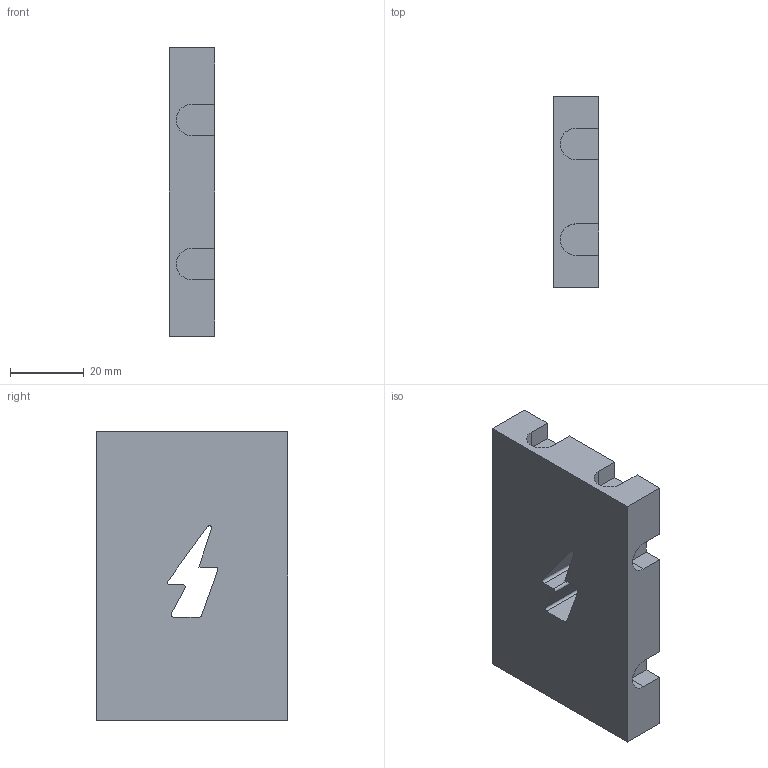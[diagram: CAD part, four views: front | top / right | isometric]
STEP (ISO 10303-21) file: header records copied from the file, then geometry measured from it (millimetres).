
FILE_DESCRIPTION (( 'STEP AP203' ), '1' );
FILE_NAME ('Section_C2.STEP', '2026-07-26T18:23:27', ( '' ), ( '' ), 'SwSTEP 2.0', 'SolidWorks 2024', '' );
FILE_SCHEMA (( 'CONFIG_CONTROL_DESIGN' ));
Length unit declared in the file: inch
Products named in the file (1): Section_C2
Bounding box: 12.34 x 51.82 x 78.08 mm (x, y, z)
Volume: 45470.1 mm3; surface area: 12398.1 mm2
Topology: 1 solids, 1 shells, 45 faces, 129 edges, 86 vertices
Faces by surface type: plane 31, cylinder 14
Entity records: 1554 total; most frequent: CARTESIAN_POINT 261, ORIENTED_EDGE 258, DIRECTION 249, EDGE_CURVE 129, VECTOR 101, LINE 101, VERTEX_POINT 86, AXIS2_PLACEMENT_3D 74
